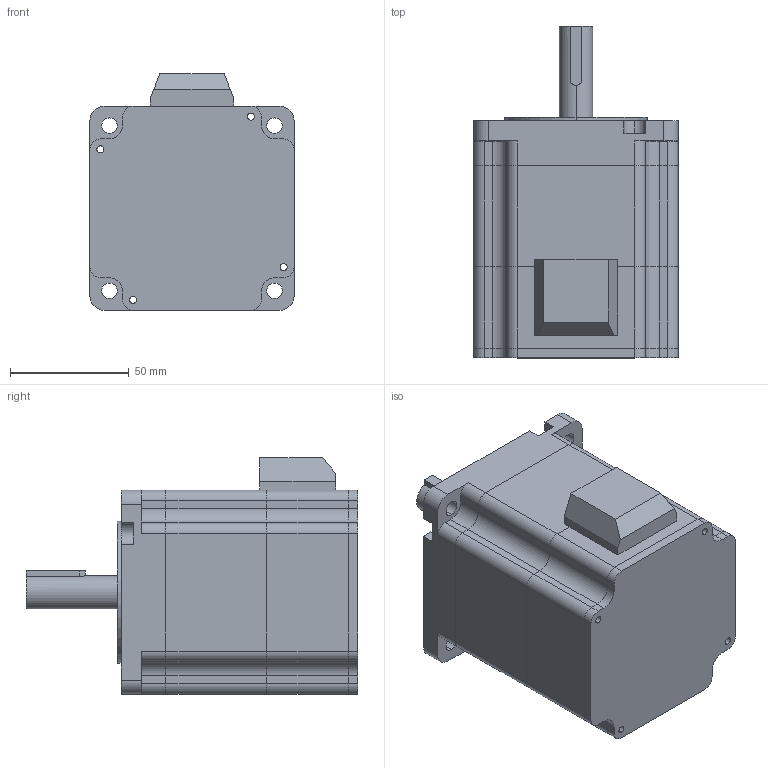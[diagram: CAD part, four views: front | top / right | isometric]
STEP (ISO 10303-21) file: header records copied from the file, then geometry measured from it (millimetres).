
FILE_DESCRIPTION (( 'STEP AP214' ), '1' );
FILE_NAME ('86HS78S403D1232-001.STEP', '2019-09-27T09:45:35', ( 'wimxt.com' ), ( 'wimxt.com' ), 'SwSTEP 2.0', 'SolidWorks 2014', '' );
FILE_SCHEMA (( 'AUTOMOTIVE_DESIGN' ));
Length unit declared in the file: millimetre
Products named in the file (7): 86A4EC誘盄杶; 86A4EC滅阨裔啣; 86A4EC¼ü; 86A4EC綴欶; 86A4EC傷裔; 86A4EC隅赽; 86HS78S403D1232-001
Assembly tree (6 placements, depth 2):
  86HS78S403D1232-001
    86A4EC隅赽
    86A4EC傷裔
    86A4EC綴欶
    86A4EC¼ü
    86A4EC滅阨裔啣
    86A4EC誘盄杶
Bounding box: 86 x 139.8 x 99.7 mm (x, y, z)
Volume: 265308.8 mm3; surface area: 116532.3 mm2
Topology: 6 solids, 6 shells, 280 faces, 778 edges, 519 vertices
Faces by surface type: cylinder 161, plane 119
Entity records: 9614 total; most frequent: CARTESIAN_POINT 1731, DIRECTION 1668, ORIENTED_EDGE 1556, EDGE_CURVE 778, AXIS2_PLACEMENT_3D 612, VERTEX_POINT 519, LINE 444, VECTOR 444
